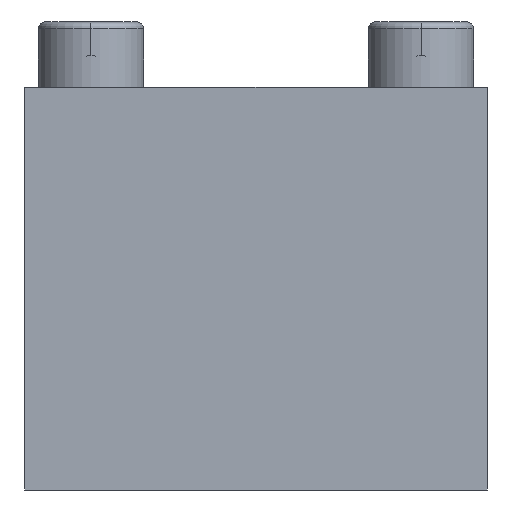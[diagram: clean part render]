
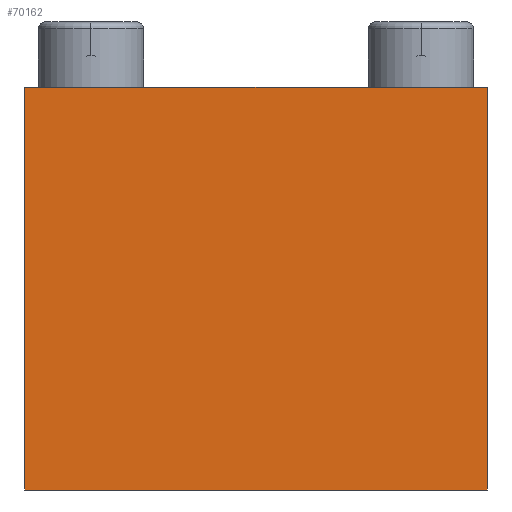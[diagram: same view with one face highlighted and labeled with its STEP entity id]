
A CAD part, front view. The second image highlights one B-rep face of the part: STEP entity #70162.
In plain terms, the highlighted planar face has unit normal (0, -1, 0).
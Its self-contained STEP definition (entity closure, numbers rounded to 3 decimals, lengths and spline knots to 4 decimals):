
#3075=LINE('',#90680,#10791);
#5070=LINE('',#98472,#12786);
#5073=LINE('',#98478,#12789);
#5074=LINE('',#98479,#12790);
#10791=VECTOR('',#76962,7.);
#12786=VECTOR('',#79163,6.1);
#12789=VECTOR('',#79168,6.1);
#12790=VECTOR('',#79169,7.);
#18511=PLANE('',#74016);
#21739=FACE_OUTER_BOUND('',#25834,.T.);
#25834=EDGE_LOOP('',(#49302,#49303,#49304,#49305));
#29867=VERTEX_POINT('',#90677);
#29868=VERTEX_POINT('',#90679);
#32658=VERTEX_POINT('',#98471);
#32660=VERTEX_POINT('',#98477);
#36529=EDGE_CURVE('',#29867,#29868,#3075,.T.);
#39320=EDGE_CURVE('',#29867,#32658,#5070,.T.);
#39323=EDGE_CURVE('',#29868,#32660,#5073,.T.);
#39324=EDGE_CURVE('',#32660,#32658,#5074,.T.);
#49302=ORIENTED_EDGE('',*,*,#39323,.F.);
#49303=ORIENTED_EDGE('',*,*,#36529,.F.);
#49304=ORIENTED_EDGE('',*,*,#39320,.T.);
#49305=ORIENTED_EDGE('',*,*,#39324,.F.);
#70162=ADVANCED_FACE('',(#21739),#18511,.T.);
#74016=AXIS2_PLACEMENT_3D('',#98476,#79166,#79167);
#76962=DIRECTION('',(1.,0.,0.));
#79163=DIRECTION('',(0.,0.,-1.));
#79166=DIRECTION('center_axis',(0.,-1.,0.));
#79167=DIRECTION('ref_axis',(-1.,0.,0.));
#79168=DIRECTION('',(0.,0.,-1.));
#79169=DIRECTION('',(-1.,0.,0.));
#90677=CARTESIAN_POINT('',(-3.5,-15.5,4.85));
#90679=CARTESIAN_POINT('',(3.5,-15.5,4.85));
#90680=CARTESIAN_POINT('',(3.5,-15.5,4.85));
#98471=CARTESIAN_POINT('',(-3.5,-15.5,-1.25));
#98472=CARTESIAN_POINT('',(-3.5,-15.5,0.));
#98476=CARTESIAN_POINT('Origin',(3.5,-15.5,3.6));
#98477=CARTESIAN_POINT('',(3.5,-15.5,-1.25));
#98478=CARTESIAN_POINT('',(3.5,-15.5,0.));
#98479=CARTESIAN_POINT('',(3.5,-15.5,-1.25));
